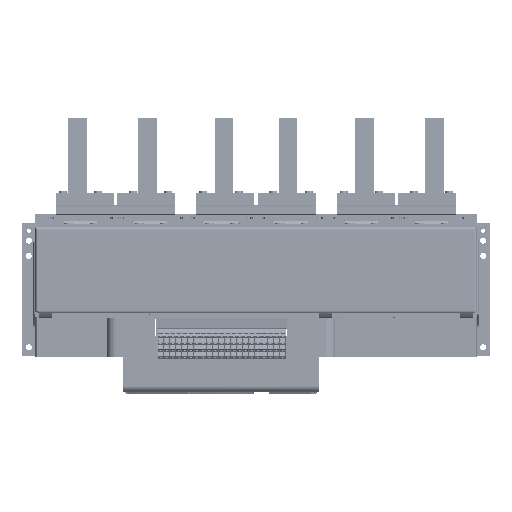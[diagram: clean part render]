
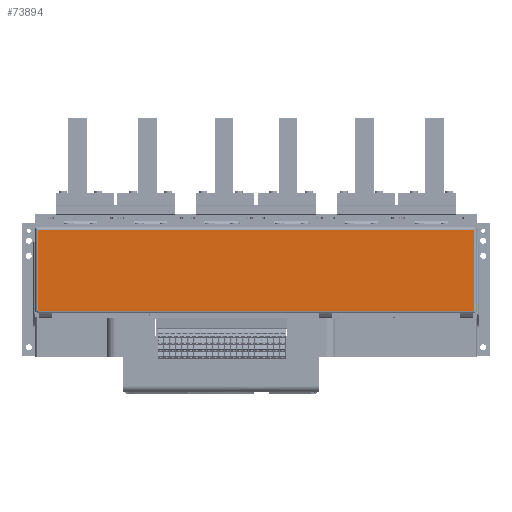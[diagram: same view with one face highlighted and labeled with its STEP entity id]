
A CAD part, left-side view. The second image highlights one B-rep face of the part: STEP entity #73894.
In plain terms, the highlighted planar face has unit normal (-1, 0, 0).
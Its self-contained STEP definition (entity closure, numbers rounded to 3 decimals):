
#15506 = DIRECTION ( 'NONE',  ( 0., 0., 1. ) ) ;
#73894 = ADVANCED_FACE ( 'NONE', ( #273282 ), #736924, .T. ) ;
#90136 = DIRECTION ( 'NONE',  ( 0., -1., 0. ) ) ;
#103208 = DIRECTION ( 'NONE',  ( 0., 0., 1. ) ) ;
#121255 = CARTESIAN_POINT ( 'NONE',  ( -455.761, 645.989, 40.182 ) ) ;
#142618 = VECTOR ( 'NONE', #676144, 1000. ) ;
#204722 = LINE ( 'NONE', #262725, #749932 ) ;
#219087 = DIRECTION ( 'NONE',  ( -1., 0., 0. ) ) ;
#225156 = CARTESIAN_POINT ( 'NONE',  ( -455.761, 645.989, -93.218 ) ) ;
#262725 = CARTESIAN_POINT ( 'NONE',  ( -455.761, 645.989, -100.818 ) ) ;
#264045 = CARTESIAN_POINT ( 'NONE',  ( -455.761, 490.989, -93.218 ) ) ;
#273282 = FACE_OUTER_BOUND ( 'NONE', #283896, .T. ) ;
#280245 = ORIENTED_EDGE ( 'NONE', *, *, #494616, .T. ) ;
#283896 = EDGE_LOOP ( 'NONE', ( #594552, #429436, #280245, #316064 ) ) ;
#301189 = EDGE_CURVE ( 'NONE', #592292, #470975, #519743, .T. ) ;
#316064 = ORIENTED_EDGE ( 'NONE', *, *, #369244, .F. ) ;
#323661 = CARTESIAN_POINT ( 'NONE',  ( -455.761, 490.989, -100.818 ) ) ;
#348272 = EDGE_CURVE ( 'NONE', #488676, #592292, #499640, .T. ) ;
#369244 = EDGE_CURVE ( 'NONE', #488676, #714772, #204722, .T. ) ;
#371168 = LINE ( 'NONE', #425322, #142618 ) ;
#396134 = CARTESIAN_POINT ( 'NONE',  ( -455.761, -69.011, -93.218 ) ) ;
#425322 = CARTESIAN_POINT ( 'NONE',  ( -455.761, 490.989, 40.182 ) ) ;
#429436 = ORIENTED_EDGE ( 'NONE', *, *, #301189, .T. ) ;
#432695 = VECTOR ( 'NONE', #90136, 1000. ) ;
#465580 = DIRECTION ( 'NONE',  ( 0., 0., 1. ) ) ;
#470975 = VERTEX_POINT ( 'NONE', #557544 ) ;
#488676 = VERTEX_POINT ( 'NONE', #225156 ) ;
#494616 = EDGE_CURVE ( 'NONE', #470975, #714772, #371168, .T. ) ;
#499640 = LINE ( 'NONE', #264045, #432695 ) ;
#507157 = AXIS2_PLACEMENT_3D ( 'NONE', #323661, #219087, #103208 ) ;
#519743 = LINE ( 'NONE', #705009, #624715 ) ;
#557544 = CARTESIAN_POINT ( 'NONE',  ( -455.761, -69.011, 40.182 ) ) ;
#592292 = VERTEX_POINT ( 'NONE', #396134 ) ;
#594552 = ORIENTED_EDGE ( 'NONE', *, *, #348272, .T. ) ;
#624715 = VECTOR ( 'NONE', #465580, 1000. ) ;
#676144 = DIRECTION ( 'NONE',  ( 0., 1., 0. ) ) ;
#705009 = CARTESIAN_POINT ( 'NONE',  ( -455.761, -69.011, -100.818 ) ) ;
#714772 = VERTEX_POINT ( 'NONE', #121255 ) ;
#736924 = PLANE ( 'NONE',  #507157 ) ;
#749932 = VECTOR ( 'NONE', #15506, 1000. ) ;
